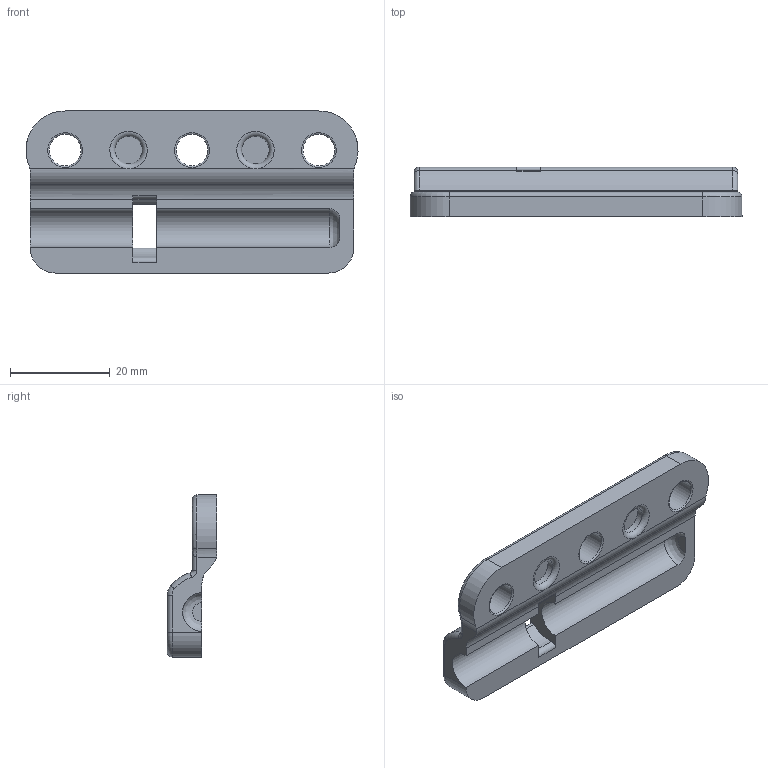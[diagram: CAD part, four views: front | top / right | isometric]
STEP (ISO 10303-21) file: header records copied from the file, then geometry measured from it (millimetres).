
FILE_DESCRIPTION(/* description */ (''),/* implementation_level */ '2;1');
FILE_NAME(/* name */ 'upper_holder_SMALL_BORE_V3.step',/* time_stamp */ '2023-02-20T17:30:44-06:00',/* author */ (''),/* organization */ (''),/* preprocessor_version */ 'ST-DEVELOPER v19.2',/* originating_system */ 'Autodesk Translation Framework v11.17.0.187',/* authorisation */ '');
FILE_SCHEMA (('AUTOMOTIVE_DESIGN { 1 0 10303 214 3 1 1 }'));
Length unit declared in the file: millimetre
Products named in the file (1): upper_holder
Bounding box: 66.49 x 10 x 32.47 mm (x, y, z)
Volume: 9684.3 mm3; surface area: 5878 mm2
Topology: 1 solids, 1 shells, 66 faces, 180 edges, 112 vertices
Faces by surface type: cylinder 31, torus 18, plane 14, bspline 3
Full cylindrical faces by diameter (mm): 5.5 x2, 6.35 x3
Entity records: 2256 total; most frequent: CARTESIAN_POINT 487, DIRECTION 401, ORIENTED_EDGE 356, EDGE_CURVE 178, AXIS2_PLACEMENT_3D 169, VERTEX_POINT 112, CIRCLE 105, EDGE_LOOP 72
